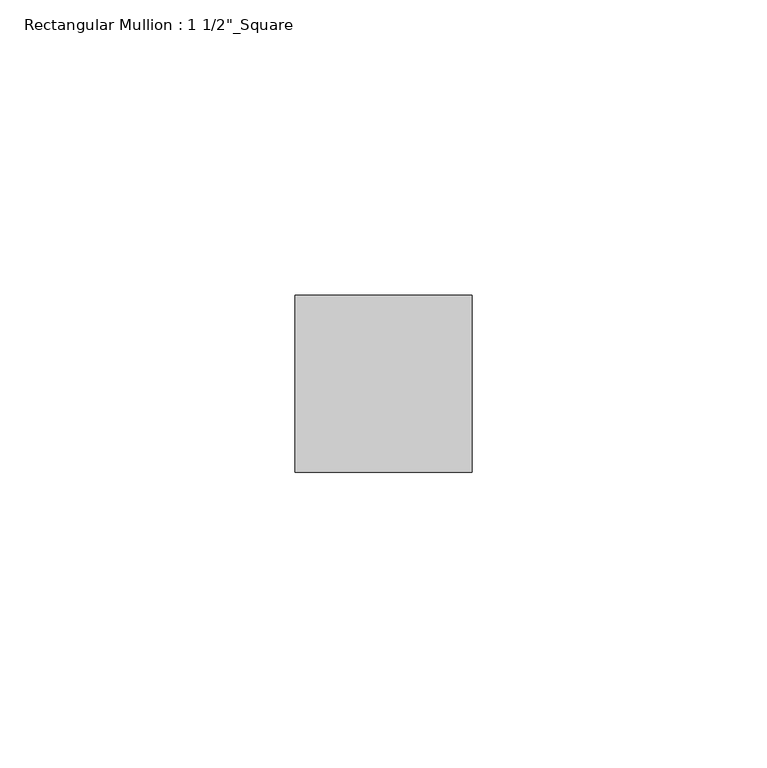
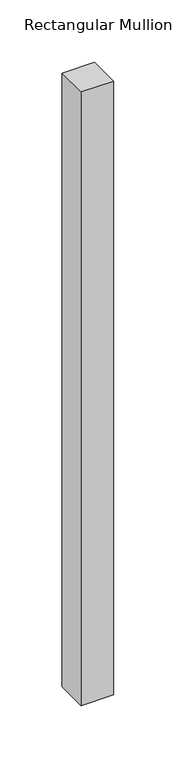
"""IFC4 building model written with IfcOpenShell, lengths in millimetres: member geometry."""

from ifc_helpers import new_model, si_unit, frame, origin, place, context, project, spatial, polyline, outline, extrude, source, transform, mapped, element, save


def member_326eaa7e(model_context):
    return source(origin(), model_context, "Body", "SweptSolid", [
        extrude(outline(polyline([(15.0, 2.5), (15.0, -27.5), (-15.0, -27.5), (-15.0, 2.5), (15.0, 2.5)])), frame((0.0, 0.0, -600.0), z_axis=(0.0, 0.0, 1.0), x_axis=(1.0, 0.0, 0.0)), (0.0, 0.0, 1.0), 600.0),
    ])


if __name__ == "__main__":
    model = new_model("IFC4")
    model_context = context("Model", 3, world=origin())
    ifc_project = project(units=[si_unit("LENGTHUNIT", "METRE", prefix="MILLI")], contexts=[model_context])
    site = spatial("IfcSite", under=ifc_project)
    building = spatial("IfcBuilding", under=site)
    placement = place(None, origin())
    member_shape = member_326eaa7e(model_context)
    element("IfcMember", 1, ObjectType="Rectangular Mullion : 1 1/2\"_Square", at=placement, inside=building, context=model_context, shape_type="MappedRepresentation", body=[
        mapped(member_shape, transform((0.0, 0.0, 0.0), x_axis=(1.0, 0.0, 0.0), y_axis=(0.0, 1.0, 0.0), z_axis=(0.0, 0.0, 1.0))),
    ])
    save(model, "model.ifc")
